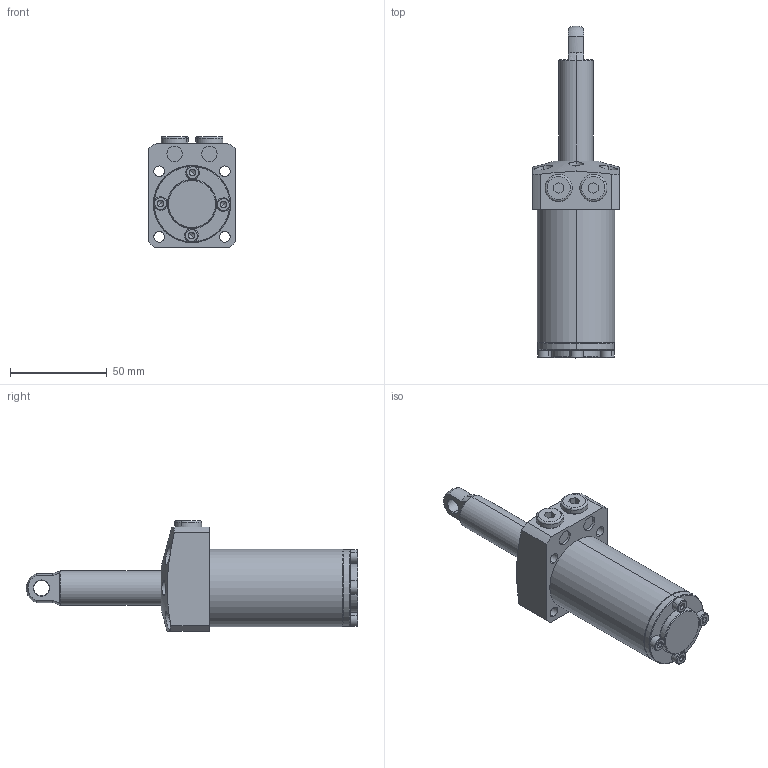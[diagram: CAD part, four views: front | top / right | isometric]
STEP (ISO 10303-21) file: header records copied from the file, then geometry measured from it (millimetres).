
FILE_DESCRIPTION (( 'STEP AP203' ), '1' );
FILE_NAME ('680400-CP-051.step', '2016-11-02T03:18:07', ( 'wxp' ), ( '' ), 'SwSTEP 2.0', 'SolidWorks 2011', '' );
FILE_SCHEMA (( 'CONFIG_CONTROL_DESIGN' ));
Length unit declared in the file: millimetre
Products named in the file (7): 680400-CP-051; 葩璃 680400-15-13^680400-CP-051; 葩璃 680400-CA-51-4^680400-CP-051; 葩璃 680400-CA-51-3^680400-CP-051; 葩璃 680400-15-4^680400-CP-051; 葩璃 680400-15-3^680400-CP-051; 葩璃 680400-CA-51-1^680400-CP-051
Assembly tree (13 placements, depth 2):
  680400-CP-051
    葩璃 680400-15-13^680400-CP-051
    葩璃 680400-15-4^680400-CP-051  x4
    葩璃 680400-CA-51-4^680400-CP-051  x2
    葩璃 680400-CA-51-3^680400-CP-051  x4
    葩璃 680400-CA-51-1^680400-CP-051
    葩璃 680400-15-3^680400-CP-051
Bounding box: 45 x 172 x 57.5 mm (x, y, z)
Volume: 148447.3 mm3; surface area: 35522 mm2
Topology: 13 solids, 13 shells, 412 faces, 794 edges, 426 vertices
Faces by surface type: plane 171, cone 120, cylinder 103, torus 16, sphere 2
Entity records: 6868 total; most frequent: CARTESIAN_POINT 1572, DIRECTION 1011, ORIENTED_EDGE 824, AXIS2_PLACEMENT_3D 423, EDGE_CURVE 412, VERTEX_POINT 244, EDGE_LOOP 238, CIRCLE 207
